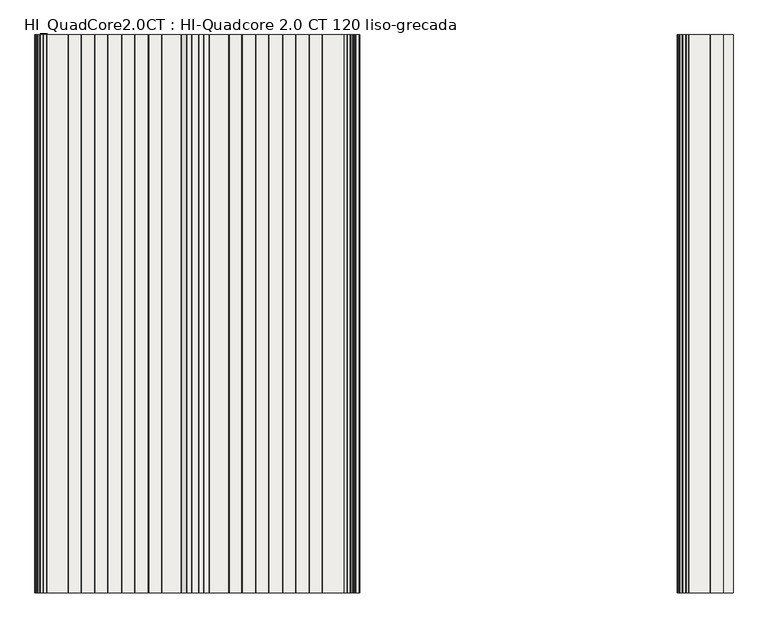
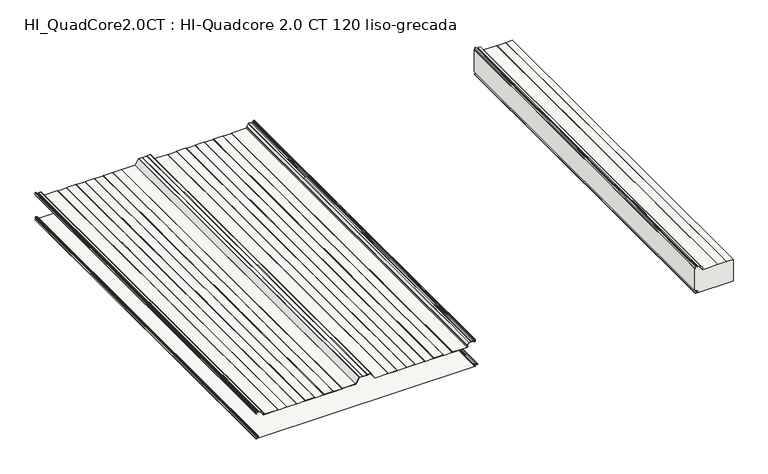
"""IFC4 building model written with IfcOpenShell, lengths in millimetres: slab geometry, HI_QuadCore2.0CT : HI-Quadcore 2.0 CT 120 liso-grecada."""

from ifc_helpers import new_model, si_unit, point, frame, frame_2d, origin, place, context, project, spatial, polyline, circle_curve, trimmed, segment, composite_curve, outline, extrude, source, transform, mapped, element, save
from ifc_brep_helpers import plane_surface, cylinder_surface, revolved_surface, advanced_brep


def hi_quadcore2_0ct_hi_quadcore_2_0_ct_120_liso_grecada_b9fa27ae(model_context):
    return source(origin(), model_context, "Body", "SolidModel", [
        advanced_brep(
        [(2305.1475465, 0.0, 135.7425833), (2301.3824194, 0.0, 137.9163804), (2300.0, 0.0, 137.9163804), (2300.0, 0.0, 16.239302), (2307.510215, 0.0, 16.239302), (2307.510215, 0.0, 15.4391074), (2303.6125693, 0.0, 15.4391074), (2302.4319301, 0.0, 14.2584682), (2303.4276302, 0.0, 13.0866965), (2311.8278581, 0.0, 11.7547343), (2311.7995989, 0.0, 4.4809044), (2301.8467032, 0.0, 2.9844289), (2302.0100062, 0.0, 0.8), (2500.0, 0.0, 0.8), (2500.0, 0.0, 119.2), (2467.3816122, 0.0, 119.2), (2465.6495614, 0.0, 118.2), (2420.6152775, 0.0, 118.2), (2418.8832267, 0.0, 119.2), (2342.7795617, 0.0, 119.2), (2339.9577511, 0.0, 126.2744555), (2340.9081159, 0.0, 127.0692788), (2341.1089583, 0.0, 128.5361221), (2331.7709236, 0.0, 142.1230469), (2330.8643848, 0.0, 142.6), (2321.5371875, 0.0, 142.6), (2319.8324194, 0.0, 141.8110374), (2318.1276514, 0.0, 142.6), (2311.4016791, 0.0, 142.6), (2309.2490397, 0.0, 144.0383476), (2307.3922843, 0.0, 148.5209518), (2306.3760168, 0.0, 149.2), (2302.7824194, 0.0, 149.2), (2301.6824194, 0.0, 148.1), (2301.6824194, 0.0, 138.6669358), (2305.5475465, 0.0, 136.4354036), (2305.1475465, 2000.0, 135.7425833), (2305.5475465, 2000.0, 136.4354036), (2301.6824194, 2000.0, 138.6669358), (2301.6824194, 2000.0, 148.1), (2302.7824194, 2000.0, 149.2), (2306.3760168, 2000.0, 149.2), (2307.3922843, 2000.0, 148.5209518), (2309.2490397, 2000.0, 144.0383476), (2311.4016791, 2000.0, 142.6), (2318.1276514, 2000.0, 142.6), (2319.8324194, 2000.0, 141.8110374), (2321.5371875, 2000.0, 142.6), (2330.8643848, 2000.0, 142.6), (2331.7709236, 2000.0, 142.1230469), (2341.1089583, 2000.0, 128.5361221), (2340.9081159, 2000.0, 127.0692788), (2339.9577511, 2000.0, 126.2744555), (2342.7795617, 2000.0, 119.2), (2418.8832267, 2000.0, 119.2), (2420.6152775, 2000.0, 118.2), (2465.6495614, 2000.0, 118.2), (2467.3816122, 2000.0, 119.2), (2500.0, 2000.0, 119.2), (2500.0, 2000.0, 0.8), (2302.0100062, 2000.0, 0.8), (2301.8467032, 2000.0, 2.9844289), (2311.7995989, 2000.0, 4.4809044), (2311.8278581, 2000.0, 11.7547343), (2303.4273037, 2000.0, 13.0846342), (2302.4319301, 2000.0, 14.2584682), (2303.6125693, 2000.0, 15.4391074), (2307.510215, 2000.0, 15.4391074), (2307.510215, 2000.0, 16.239302), (2300.0, 2000.0, 16.239302), (2300.0, 2000.0, 137.9163804), (2301.3824194, 2000.0, 137.9163804)],
        [
            (0, 1),
            (1, 2),
            (2, 3),
            (3, 4),
            (4, 5),
            (5, 6),
            (6, 7, circle_curve(frame((2303.6125693, 0.0, 14.2584682), z_axis=(0.0, -1.0, 0.0), x_axis=(1.0, 0.0, 0.0)), 1.1806391)),
            (7, 8, circle_curve(frame((2303.6121809, 0.0, 14.2524448), z_axis=(0.0, -1.0, 0.0), x_axis=(1.0, 0.0, 0.0)), 1.1802661)),
            (8, 9),
            (9, 10, circle_curve(frame((2311.2524398, 0.0, 8.12), z_axis=(0.0, 1.0, 0.0), x_axis=(1.0, 0.0, 0.0)), 3.68)),
            (10, 11),
            (11, 12, circle_curve(frame((2302.0100062, 0.0, 1.8983185), z_axis=(0.0, -1.0, 0.0), x_axis=(1.0, 0.0, 0.0)), 1.0983185)),
            (12, 13),
            (13, 14),
            (14, 15),
            (15, 16),
            (16, 17),
            (17, 18),
            (18, 19),
            (19, 20, circle_curve(frame((2342.7795617, 0.0, 123.3), z_axis=(0.0, 1.0, 0.0), x_axis=(1.0, 0.0, 0.0)), 4.1)),
            (20, 21),
            (21, 22, circle_curve(frame((2340.2024195, 0.0, 127.9130752), z_axis=(0.0, -1.0, 0.0), x_axis=(1.0, 0.0, 0.0)), 1.1)),
            (22, 23),
            (23, 24, circle_curve(frame((2330.8643848, 0.0, 141.5), z_axis=(0.0, -1.0, 0.0), x_axis=(1.0, 0.0, 0.0)), 1.1)),
            (24, 25),
            (25, 26),
            (26, 27),
            (27, 28),
            (28, 29, circle_curve(frame((2311.4016791, 0.0, 144.93), z_axis=(0.0, 1.0, 0.0), x_axis=(1.0, 0.0, 0.0)), 2.33)),
            (29, 30),
            (30, 31, circle_curve(frame((2306.3760168, 0.0, 148.1), z_axis=(0.0, -1.0, 0.0), x_axis=(1.0, 0.0, 0.0)), 1.1)),
            (31, 32),
            (32, 33, circle_curve(frame((2302.7824194, 0.0, 148.1), z_axis=(0.0, -1.0, 0.0), x_axis=(1.0, 0.0, 0.0)), 1.1)),
            (33, 34),
            (34, 35),
            (35, 0),
            (36, 37),
            (37, 38),
            (38, 39),
            (39, 40, circle_curve(frame((2302.7824194, 2000.0, 148.1), z_axis=(0.0, 1.0, 0.0), x_axis=(1.0, 0.0, 0.0)), 1.1)),
            (40, 41),
            (41, 42, circle_curve(frame((2306.3760168, 2000.0, 148.1), z_axis=(0.0, 1.0, 0.0), x_axis=(1.0, 0.0, 0.0)), 1.1)),
            (42, 43),
            (43, 44, circle_curve(frame((2311.4016791, 2000.0, 144.93), z_axis=(0.0, -1.0, 0.0), x_axis=(1.0, 0.0, 0.0)), 2.33)),
            (44, 45),
            (45, 46),
            (46, 47),
            (47, 48),
            (48, 49, circle_curve(frame((2330.8643848, 2000.0, 141.5), z_axis=(0.0, 1.0, 0.0), x_axis=(1.0, 0.0, 0.0)), 1.1)),
            (49, 50),
            (50, 51, circle_curve(frame((2340.2024195, 2000.0, 127.9130752), z_axis=(0.0, 1.0, 0.0), x_axis=(1.0, 0.0, 0.0)), 1.1)),
            (51, 52),
            (52, 53, circle_curve(frame((2342.7795617, 2000.0, 123.3), z_axis=(0.0, -1.0, 0.0), x_axis=(1.0, 0.0, 0.0)), 4.1)),
            (53, 54),
            (54, 55),
            (55, 56),
            (56, 57),
            (57, 58),
            (58, 59),
            (59, 60),
            (60, 61, circle_curve(frame((2302.0100062, 2000.0, 1.8983185), z_axis=(0.0, 1.0, 0.0), x_axis=(1.0, 0.0, 0.0)), 1.0983185)),
            (61, 62),
            (62, 63, circle_curve(frame((2311.2524398, 2000.0, 8.12), z_axis=(0.0, -1.0, 0.0), x_axis=(1.0, 0.0, 0.0)), 3.68)),
            (63, 64),
            (64, 65, circle_curve(frame((2303.6121809, 2000.0, 14.2524448), z_axis=(0.0, 1.0, 0.0), x_axis=(1.0, 0.0, 0.0)), 1.1802661)),
            (65, 66, circle_curve(frame((2303.6125693, 2000.0, 14.2584682), z_axis=(0.0, 1.0, 0.0), x_axis=(1.0, 0.0, 0.0)), 1.1806391)),
            (66, 67),
            (67, 68),
            (68, 69),
            (69, 70),
            (70, 71),
            (71, 36),
            (0, 36),
            (71, 1),
            (70, 2),
            (69, 3),
            (57, 15),
            (14, 58),
            (56, 16),
            (55, 17),
            (54, 18),
            (53, 19),
            (52, 20),
            (51, 21),
            (50, 22),
            (49, 23),
            (48, 24),
            (47, 25),
            (46, 26),
            (45, 27),
            (44, 28),
            (43, 29),
            (42, 30),
            (41, 31),
            (40, 32),
            (39, 33),
            (38, 34),
            (37, 35),
            (68, 4),
            (67, 5),
            (66, 6),
            (65, 7),
            (64, 8),
            (63, 9),
            (62, 10),
            (61, 11),
            (60, 12),
            (59, 13),
        ],
        [
            plane_surface(frame((2301.3824194, 0.0, 137.9163804), z_axis=(0.0, -1.0, 0.0), x_axis=(-0.8660254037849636, 0.0, 0.4999999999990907))),
            plane_surface(frame((2301.3824194, 2000.0, 137.9163804), z_axis=(0.0, 1.0, 0.0), x_axis=(0.8660254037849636, 0.0, -0.4999999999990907))),
            plane_surface(frame((2305.1475465, 0.0, 135.7425833), z_axis=(0.4999999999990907, 0.0, 0.8660254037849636), x_axis=(0.0, 1.0, 0.0))),
            plane_surface(frame((2301.3824194, 0.0, 137.9163804), z_axis=(0.0, 0.0, 1.0), x_axis=(0.0, 1.0, 0.0))),
            plane_surface(frame((2300.0, 0.0, 137.9163804), z_axis=(-1.0, 0.0, 0.0), x_axis=(0.0, 1.0, 0.0))),
            plane_surface(frame((2514.8832267, 0.0, 119.2), z_axis=(0.0, 0.0, 1.0), x_axis=(0.0, 1.0, 0.0))),
            plane_surface(frame((2467.3816122, 0.0, 119.2), z_axis=(-0.5000000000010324, 0.0, 0.8660254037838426), x_axis=(0.0, 1.0, 0.0))),
            plane_surface(frame((2465.6495614, 0.0, 118.2), z_axis=(0.0, 0.0, 1.0), x_axis=(0.0, 1.0, 0.0))),
            plane_surface(frame((2420.6152775, 0.0, 118.2), z_axis=(0.4999999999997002, 0.0, 0.8660254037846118), x_axis=(0.0, 1.0, 0.0))),
            plane_surface(frame((2418.8832267, 0.0, 119.2), z_axis=(0.0, 0.0, 1.0), x_axis=(0.0, 1.0, 0.0))),
            revolved_surface(polyline([(2346.8795617, 2000.0, 123.3), (2346.8795617, 0.0, 123.3)]), (2342.7795617, 2000.0, 123.3), (0.0, 1.0, 0.0)),
            plane_surface(frame((2339.9577511, 0.0, 126.2744555), z_axis=(0.6415422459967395, 0.0, -0.7670877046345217), x_axis=(0.0, 1.0, 0.0))),
            cylinder_surface(frame((2340.2024195, 2000.0, 127.9130752), z_axis=(0.0, -1.0, 0.0), x_axis=(1.0, 0.0, 0.0)), 1.1),
            plane_surface(frame((2341.1089583, 0.0, 128.5361221), z_axis=(0.8241261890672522, 0.0, 0.5664062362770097), x_axis=(0.0, 1.0, 0.0))),
            cylinder_surface(frame((2330.8643848, 2000.0, 141.5), z_axis=(0.0, -1.0, 0.0), x_axis=(1.0, 0.0, 0.0)), 1.1),
            plane_surface(frame((2330.8643848, 0.0, 142.6), z_axis=(0.0, 0.0, 1.0), x_axis=(0.0, 1.0, 0.0))),
            plane_surface(frame((2321.5371875, 0.0, 142.6), z_axis=(-0.4199999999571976, 0.0, 0.9075241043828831), x_axis=(0.0, 1.0, 0.0))),
            plane_surface(frame((2319.8324194, 0.0, 141.8110374), z_axis=(0.4200000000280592, 0.0, 0.9075241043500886), x_axis=(0.0, 1.0, 0.0))),
            plane_surface(frame((2318.1276514, 0.0, 142.6), z_axis=(0.0, 0.0, 1.0), x_axis=(0.0, 1.0, 0.0))),
            revolved_surface(polyline([(2313.7316791, 2000.0, 144.93), (2313.7316791, 0.0, 144.93)]), (2311.4016791, 2000.0, 144.93), (0.0, 1.0, 0.0)),
            plane_surface(frame((2309.2490397, 0.0, 144.0383476), z_axis=(0.9238795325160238, 0.0, 0.3826834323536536), x_axis=(0.0, 1.0, 0.0))),
            cylinder_surface(frame((2306.3760168, 2000.0, 148.1), z_axis=(0.0, -1.0, 0.0), x_axis=(1.0, 0.0, 0.0)), 1.1),
            plane_surface(frame((2306.3760168, 0.0, 149.2), z_axis=(0.0, 0.0, 1.0), x_axis=(0.0, 1.0, 0.0))),
            cylinder_surface(frame((2302.7824194, 2000.0, 148.1), z_axis=(0.0, -1.0, 0.0), x_axis=(1.0, 0.0, 0.0)), 1.1),
            plane_surface(frame((2301.6824194, 0.0, 148.1), z_axis=(-1.0, 0.0, 0.0), x_axis=(0.0, 1.0, 0.0))),
            plane_surface(frame((2301.6824194, 0.0, 138.6669358), z_axis=(-0.49999999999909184, 0.0, -0.866025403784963), x_axis=(0.0, 1.0, 0.0))),
            plane_surface(frame((2305.5475465, 0.0, 136.4354036), z_axis=(-0.866025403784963, 0.0, 0.4999999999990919), x_axis=(0.0, 1.0, 0.0))),
            plane_surface(frame((2300.0, 0.0, 16.239302), z_axis=(0.0, 0.0, -1.0), x_axis=(0.0, 1.0, 0.0))),
            plane_surface(frame((2307.510215, 0.0, 16.239302), z_axis=(-1.0, 0.0, 0.0), x_axis=(0.0, 1.0, 0.0))),
            plane_surface(frame((2307.510215, 0.0, 15.4391074), z_axis=(0.0, 0.0, 1.0), x_axis=(0.0, 1.0, 0.0))),
            cylinder_surface(frame((2303.6125693, 2000.0, 14.2584682), z_axis=(0.0, -1.0, 0.0), x_axis=(1.0, 0.0, 0.0)), 1.1806391),
            cylinder_surface(frame((2303.6121809, 2000.0, 14.2524448), z_axis=(0.0, -1.0, 0.0), x_axis=(1.0, 0.0, 0.0)), 1.1802661),
            plane_surface(frame((2303.4273037, 0.0, 13.0846342), z_axis=(-0.1563636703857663, 0.0, -0.9876995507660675), x_axis=(0.0, 1.0, 0.0))),
            revolved_surface(polyline([(2314.9324398, 2000.0, 8.12), (2314.9324398, 0.0, 8.12)]), (2311.2524398, 2000.0, 8.12), (0.0, 1.0, 0.0)),
            plane_surface(frame((2311.7995989, 0.0, 4.4809044), z_axis=(-0.14868453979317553, 0.0, 0.9888846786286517), x_axis=(0.0, 1.0, 0.0))),
            cylinder_surface(frame((2302.0100062, 2000.0, 1.8983185), z_axis=(0.0, -1.0, 0.0), x_axis=(1.0, 0.0, 0.0)), 1.0983185),
            plane_surface(frame((2302.0100062, 0.0, 0.8), z_axis=(0.0, 0.0, -1.0), x_axis=(0.0, 1.0, 0.0))),
            plane_surface(frame((2500.0, 0.0, 166.2714688), z_axis=(1.0, 0.0, 0.0), x_axis=(0.0, 1.0, 0.0))),
        ],
        [
            (0, [[1, 2, 3, 4, 5, 6, 7, 8, 9, 10, 11, 12, 13, 14, 15, 16, 17, 18, 19, 20, 21, 22, 23, 24, 25, 26, 27, 28, 29, 30, 31, 32, 33, 34, 35, 36]]),
            (1, [[37, 38, 39, 40, 41, 42, 43, 44, 45, 46, 47, 48, 49, 50, 51, 52, 53, 54, 55, 56, 57, 58, 59, 60, 61, 62, 63, 64, 65, 66, 67, 68, 69, 70, 71, 72]]),
            (2, [[-1, 73, -72, 74]]),
            (3, [[-2, -74, -71, 75]]),
            (4, [[-75, -70, 76, -3]]),
            (5, [[77, -15, 78, -58]]),
            (6, [[-16, -77, -57, 79]]),
            (7, [[-17, -79, -56, 80]]),
            (8, [[-18, -80, -55, 81]]),
            (9, [[-19, -81, -54, 82]]),
            (10, [[-20, -82, -53, 83]]),
            (11, [[-21, -83, -52, 84]]),
            (12, [[-22, -84, -51, 85]]),
            (13, [[-23, -85, -50, 86]]),
            (14, [[-24, -86, -49, 87]]),
            (15, [[-25, -87, -48, 88]]),
            (16, [[-26, -88, -47, 89]]),
            (17, [[-27, -89, -46, 90]]),
            (18, [[-28, -90, -45, 91]]),
            (19, [[-29, -91, -44, 92]]),
            (20, [[-30, -92, -43, 93]]),
            (21, [[-31, -93, -42, 94]]),
            (22, [[-32, -94, -41, 95]]),
            (23, [[-33, -95, -40, 96]]),
            (24, [[-34, -96, -39, 97]]),
            (25, [[-35, -97, -38, 98]]),
            (26, [[-36, -98, -37, -73]]),
            (27, [[-76, -69, 99, -4]]),
            (28, [[-5, -99, -68, 100]]),
            (29, [[-6, -100, -67, 101]]),
            (30, [[-7, -101, -66, 102]]),
            (31, [[-8, -102, -65, 103]]),
            (32, [[-9, -103, -64, 104]]),
            (33, [[-10, -104, -63, 105]]),
            (34, [[-11, -105, -62, 106]]),
            (35, [[-12, -106, -61, 107]]),
            (36, [[-107, -60, 108, -13]]),
            (37, [[-14, -108, -59, -78]]),
        ],
    ),
        advanced_brep(
        [(3.6125412, 0.0, 16.239302), (1.6320413, 0.0, 14.2588021), (3.3026044, 0.0, 12.2960661), (11.7027672, 0.0, 10.9645747), (11.6806488, 0.0, 5.2720118), (1.7277556, 0.0, 3.7755366), (2.0100062, 0.0, 0.0), (1147.9590685, 0.0, 0.0), (1150.1391392, 0.0, 2.1800708), (1152.6636211, 0.0, 5.0353254), (1160.9083654, 0.0, 6.0356531), (1160.9083654, 0.0, 10.2043469), (1150.9419234, 0.0, 11.413338), (1148.6324398, 0.0, 14.0237344), (1147.5187526, 0.0, 16.24), (1142.7624398, 0.0, 16.24), (1142.7624398, 0.0, 15.44), (1147.2282701, 0.0, 15.44), (1147.8324398, 0.0, 14.0237344), (1150.8450446, 0.0, 10.6192254), (1160.7843299, 0.0, 9.4135286), (1160.7843221, 0.0, 6.8264698), (1152.5664905, 0.0, 5.8294074), (1149.3391392, 0.0, 2.1800708), (1147.9590685, 0.0, 0.8), (2.0100062, 0.0, 0.8), (1.8467032, 0.0, 2.9844289), (11.7995989, 0.0, 4.4809044), (11.8278581, 0.0, 11.7547343), (3.4279307, 0.0, 13.084535), (2.4319301, 0.0, 14.2584682), (3.6125693, 0.0, 15.4391074), (7.510215, 0.0, 15.4391074), (7.510215, 0.0, 16.239302), (3.6125412, 2000.0, 16.239302), (7.510215, 2000.0, 16.239302), (7.510215, 2000.0, 15.4391074), (3.6125693, 2000.0, 15.4391074), (2.4319301, 2000.0, 14.2584682), (3.4276302, 2000.0, 13.0866965), (11.8278581, 2000.0, 11.7547343), (11.7995989, 2000.0, 4.4809044), (1.8467032, 2000.0, 2.9844289), (2.0100062, 2000.0, 0.8), (1147.9590685, 2000.0, 0.8), (1149.3391392, 2000.0, 2.1800708), (1152.5664905, 2000.0, 5.8294074), (1160.7843221, 2000.0, 6.8264698), (1160.7843299, 2000.0, 9.4135286), (1150.8450446, 2000.0, 10.6192254), (1147.8324398, 2000.0, 14.0237344), (1147.2282701, 2000.0, 15.44), (1142.7624398, 2000.0, 15.44), (1142.7624398, 2000.0, 16.24), (1147.5187526, 2000.0, 16.24), (1148.6324398, 2000.0, 14.0237344), (1150.9419234, 2000.0, 11.413338), (1160.9083654, 2000.0, 10.2043469), (1160.9083654, 2000.0, 6.0356531), (1152.6636211, 2000.0, 5.0353254), (1150.1391392, 2000.0, 2.1800708), (1147.9590685, 2000.0, 0.0), (2.0100062, 2000.0, 0.0), (1.7277556, 2000.0, 3.7755366), (11.6806488, 2000.0, 5.2720118), (11.7027672, 2000.0, 10.9645747), (3.3028397, 2000.0, 12.2943753), (1.6320413, 2000.0, 14.2588021)],
        [
            (0, 1, circle_curve(frame((3.6125412, 0.0, 14.2588021), z_axis=(0.0, -1.0, 0.0), x_axis=(1.0, 0.0, 0.0)), 1.9804999)),
            (1, 2, circle_curve(frame((3.612237, 0.0, 14.2519163), z_axis=(0.0, -1.0, 0.0), x_axis=(1.0, 0.0, 0.0)), 1.9802076)),
            (2, 3),
            (3, 4, circle_curve(frame((11.2524398, 0.0, 8.12), z_axis=(0.0, 1.0, 0.0), x_axis=(1.0, 0.0, 0.0)), 2.88)),
            (4, 5),
            (5, 6, circle_curve(frame((2.0100062, 0.0, 1.8983185), z_axis=(0.0, -1.0, 0.0), x_axis=(1.0, 0.0, 0.0)), 1.8983185)),
            (6, 7),
            (7, 8, circle_curve(frame((1147.9590685, 0.0, 2.1800708), z_axis=(0.0, -1.0, 0.0), x_axis=(1.0, 0.0, 0.0)), 2.1800708)),
            (8, 9, circle_curve(frame((1153.0160638, 0.0, 2.1800708), z_axis=(0.0, 1.0, 0.0), x_axis=(1.0, 0.0, 0.0)), 2.8769246)),
            (9, 10),
            (10, 11, circle_curve(frame((1160.5224398, 0.0, 8.12), z_axis=(0.0, -1.0, 0.0), x_axis=(1.0, 0.0, 0.0)), 2.1197737)),
            (11, 12),
            (12, 13, circle_curve(frame((1151.2624398, 0.0, 14.0237344), z_axis=(0.0, 1.0, 0.0), x_axis=(1.0, 0.0, 0.0)), 2.63)),
            (13, 14, circle_curve(frame((1145.8703839, 0.0, 14.0237344), z_axis=(0.0, -1.0, 0.0), x_axis=(1.0, 0.0, 0.0)), 2.7620559)),
            (14, 15),
            (15, 16),
            (16, 17),
            (17, 18, circle_curve(frame((1145.8703839, 0.0, 14.0237344), z_axis=(0.0, 1.0, 0.0), x_axis=(1.0, 0.0, 0.0)), 1.9620559)),
            (18, 19, circle_curve(frame((1151.2624398, 0.0, 14.0237344), z_axis=(0.0, -1.0, 0.0), x_axis=(1.0, 0.0, 0.0)), 3.43)),
            (19, 20),
            (20, 21, circle_curve(frame((1160.5224398, 0.0, 8.12), z_axis=(0.0, 1.0, 0.0), x_axis=(1.0, 0.0, 0.0)), 1.3197737)),
            (21, 22),
            (22, 23, circle_curve(frame((1153.0160638, 0.0, 2.1800708), z_axis=(0.0, -1.0, 0.0), x_axis=(1.0, 0.0, 0.0)), 3.6769246)),
            (23, 24, circle_curve(frame((1147.9590685, 0.0, 2.1800708), z_axis=(0.0, 1.0, 0.0), x_axis=(1.0, 0.0, 0.0)), 1.3800708)),
            (24, 25),
            (25, 26, circle_curve(frame((2.0100062, 0.0, 1.8983185), z_axis=(0.0, 1.0, 0.0), x_axis=(1.0, 0.0, 0.0)), 1.0983185)),
            (26, 27),
            (27, 28, circle_curve(frame((11.2524398, 0.0, 8.12), z_axis=(0.0, -1.0, 0.0), x_axis=(1.0, 0.0, 0.0)), 3.68)),
            (28, 29),
            (29, 30, circle_curve(frame((3.6121809, 0.0, 14.2524448), z_axis=(0.0, 1.0, 0.0), x_axis=(1.0, 0.0, 0.0)), 1.1802661)),
            (30, 31, circle_curve(frame((3.6125693, 0.0, 14.2584682), z_axis=(0.0, 1.0, 0.0), x_axis=(1.0, 0.0, 0.0)), 1.1806391)),
            (31, 32),
            (32, 33),
            (33, 0),
            (34, 35),
            (35, 36),
            (36, 37),
            (37, 38, circle_curve(frame((3.6125693, 2000.0, 14.2584682), z_axis=(0.0, -1.0, 0.0), x_axis=(1.0, 0.0, 0.0)), 1.1806391)),
            (38, 39, circle_curve(frame((3.6121809, 2000.0, 14.2524448), z_axis=(0.0, -1.0, 0.0), x_axis=(1.0, 0.0, 0.0)), 1.1802661)),
            (39, 40),
            (40, 41, circle_curve(frame((11.2524398, 2000.0, 8.12), z_axis=(0.0, 1.0, 0.0), x_axis=(1.0, 0.0, 0.0)), 3.68)),
            (41, 42),
            (42, 43, circle_curve(frame((2.0100062, 2000.0, 1.8983185), z_axis=(0.0, -1.0, 0.0), x_axis=(1.0, 0.0, 0.0)), 1.0983185)),
            (43, 44),
            (44, 45, circle_curve(frame((1147.9590685, 2000.0, 2.1800708), z_axis=(0.0, -1.0, 0.0), x_axis=(1.0, 0.0, 0.0)), 1.3800708)),
            (45, 46, circle_curve(frame((1153.0160638, 2000.0, 2.1800708), z_axis=(0.0, 1.0, 0.0), x_axis=(1.0, 0.0, 0.0)), 3.6769246)),
            (46, 47),
            (47, 48, circle_curve(frame((1160.5224398, 2000.0, 8.12), z_axis=(0.0, -1.0, 0.0), x_axis=(1.0, 0.0, 0.0)), 1.3197737)),
            (48, 49),
            (49, 50, circle_curve(frame((1151.2624398, 2000.0, 14.0237344), z_axis=(0.0, 1.0, 0.0), x_axis=(1.0, 0.0, 0.0)), 3.43)),
            (50, 51, circle_curve(frame((1145.8703839, 2000.0, 14.0237344), z_axis=(0.0, -1.0, 0.0), x_axis=(1.0, 0.0, 0.0)), 1.9620559)),
            (51, 52),
            (52, 53),
            (53, 54),
            (54, 55, circle_curve(frame((1145.8703839, 2000.0, 14.0237344), z_axis=(0.0, 1.0, 0.0), x_axis=(1.0, 0.0, 0.0)), 2.7620559)),
            (55, 56, circle_curve(frame((1151.2624398, 2000.0, 14.0237344), z_axis=(0.0, -1.0, 0.0), x_axis=(1.0, 0.0, 0.0)), 2.63)),
            (56, 57),
            (57, 58, circle_curve(frame((1160.5224398, 2000.0, 8.12), z_axis=(0.0, 1.0, 0.0), x_axis=(1.0, 0.0, 0.0)), 2.1197737)),
            (58, 59),
            (59, 60, circle_curve(frame((1153.0160638, 2000.0, 2.1800708), z_axis=(0.0, -1.0, 0.0), x_axis=(1.0, 0.0, 0.0)), 2.8769246)),
            (60, 61, circle_curve(frame((1147.9590685, 2000.0, 2.1800708), z_axis=(0.0, 1.0, 0.0), x_axis=(1.0, 0.0, 0.0)), 2.1800708)),
            (61, 62),
            (62, 63, circle_curve(frame((2.0100062, 2000.0, 1.8983185), z_axis=(0.0, 1.0, 0.0), x_axis=(1.0, 0.0, 0.0)), 1.8983185)),
            (63, 64),
            (64, 65, circle_curve(frame((11.2524398, 2000.0, 8.12), z_axis=(0.0, -1.0, 0.0), x_axis=(1.0, 0.0, 0.0)), 2.88)),
            (65, 66),
            (66, 67, circle_curve(frame((3.612237, 2000.0, 14.2519163), z_axis=(0.0, 1.0, 0.0), x_axis=(1.0, 0.0, 0.0)), 1.9802076)),
            (67, 34, circle_curve(frame((3.6125412, 2000.0, 14.2588021), z_axis=(0.0, 1.0, 0.0), x_axis=(1.0, 0.0, 0.0)), 1.9804999)),
            (0, 34),
            (67, 1),
            (66, 2),
            (65, 3),
            (64, 4),
            (63, 5),
            (62, 6),
            (61, 7),
            (60, 8),
            (59, 9),
            (58, 10),
            (57, 11),
            (56, 12),
            (55, 13),
            (54, 14),
            (53, 15),
            (52, 16),
            (51, 17),
            (50, 18),
            (49, 19),
            (48, 20),
            (47, 21),
            (46, 22),
            (45, 23),
            (44, 24),
            (43, 25),
            (42, 26),
            (41, 27),
            (40, 28),
            (39, 29),
            (38, 30),
            (37, 31),
            (36, 32),
            (35, 33),
        ],
        [
            plane_surface(frame((5.5930411, 0.0, 14.2588021), z_axis=(0.0, -1.0, 0.0), x_axis=(0.0, 0.0, 1.0))),
            plane_surface(frame((5.5930411, 2000.0, 14.2588021), z_axis=(0.0, 1.0, 0.0), x_axis=(0.0, 0.0, -1.0))),
            cylinder_surface(frame((3.6125412, 2000.0, 14.2588021), z_axis=(0.0, -1.0, 0.0), x_axis=(1.0, 0.0, 0.0)), 1.9804999),
            cylinder_surface(frame((3.612237, 2000.0, 14.2519163), z_axis=(0.0, -1.0, 0.0), x_axis=(1.0, 0.0, 0.0)), 1.9802076),
            plane_surface(frame((3.3028397, 0.0, 12.2943753), z_axis=(-0.15636367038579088, 0.0, -0.9876995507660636), x_axis=(0.0, 1.0, 0.0))),
            revolved_surface(polyline([(14.1324398, 2000.0, 8.12), (14.1324398, 0.0, 8.12)]), (11.2524398, 2000.0, 8.12), (0.0, 1.0, 0.0)),
            plane_surface(frame((11.6806488, 0.0, 5.2720118), z_axis=(-0.14868453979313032, 0.0, 0.9888846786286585), x_axis=(0.0, 1.0, 0.0))),
            cylinder_surface(frame((2.0100062, 2000.0, 1.8983185), z_axis=(0.0, -1.0, 0.0), x_axis=(1.0, 0.0, 0.0)), 1.8983185),
            plane_surface(frame((2.0100062, 0.0, 0.0), z_axis=(0.0, 0.0, -1.0), x_axis=(0.0, 1.0, 0.0))),
            cylinder_surface(frame((1147.9590685, 2000.0, 2.1800708), z_axis=(0.0, -1.0, 0.0), x_axis=(1.0, 0.0, 0.0)), 2.1800708),
            revolved_surface(polyline([(1155.8929884, 2000.0, 2.1800708), (1155.8929884, 0.0, 2.1800708)]), (1153.0160638, 2000.0, 2.1800708), (0.0, 1.0, 0.0)),
            plane_surface(frame((1152.6636211, 0.0, 5.0353254), z_axis=(0.12044584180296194, 0.0, -0.9927198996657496), x_axis=(0.0, 1.0, 0.0))),
            cylinder_surface(frame((1160.5224398, 2000.0, 8.12), z_axis=(0.0, -1.0, 0.0), x_axis=(1.0, 0.0, 0.0)), 2.1197737),
            plane_surface(frame((1160.9083654, 0.0, 10.2043469), z_axis=(0.12042339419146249, 0.0, 0.9927226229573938), x_axis=(0.0, 1.0, 0.0))),
            revolved_surface(polyline([(1153.8924398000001, 2000.0, 14.0237344), (1153.8924398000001, 0.0, 14.0237344)]), (1151.2624398, 2000.0, 14.0237344), (0.0, 1.0, 0.0)),
            cylinder_surface(frame((1145.8703839, 2000.0, 14.0237344), z_axis=(0.0, -1.0, 0.0), x_axis=(1.0, 0.0, 0.0)), 2.7620559),
            plane_surface(frame((1147.5187526, 0.0, 16.24), z_axis=(0.0, 0.0, 1.0), x_axis=(0.0, 1.0, 0.0))),
            plane_surface(frame((1142.7624398, 0.0, 16.24), z_axis=(-1.0, 0.0, 0.0), x_axis=(0.0, 1.0, 0.0))),
            plane_surface(frame((1142.7624398, 0.0, 15.44), z_axis=(0.0, 0.0, -1.0), x_axis=(0.0, 1.0, 0.0))),
            revolved_surface(polyline([(1147.8324398, 2000.0, 14.0237344), (1147.8324398, 0.0, 14.0237344)]), (1145.8703839, 2000.0, 14.0237344), (0.0, 1.0, 0.0)),
            cylinder_surface(frame((1151.2624398, 2000.0, 14.0237344), z_axis=(0.0, -1.0, 0.0), x_axis=(1.0, 0.0, 0.0)), 3.43),
            plane_surface(frame((1150.8450446, 0.0, 10.6192254), z_axis=(-0.12042339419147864, 0.0, -0.9927226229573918), x_axis=(0.0, 1.0, 0.0))),
            revolved_surface(polyline([(1161.8422135, 2000.0, 8.12), (1161.8422135, 0.0, 8.12)]), (1160.5224398, 2000.0, 8.12), (0.0, 1.0, 0.0)),
            plane_surface(frame((1160.7843221, 0.0, 6.8264698), z_axis=(-0.12044584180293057, 0.0, 0.9927198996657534), x_axis=(0.0, 1.0, 0.0))),
            cylinder_surface(frame((1153.0160638, 2000.0, 2.1800708), z_axis=(0.0, -1.0, 0.0), x_axis=(1.0, 0.0, 0.0)), 3.6769246),
            revolved_surface(polyline([(1149.3391393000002, 2000.0, 2.1800708), (1149.3391393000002, 0.0, 2.1800708)]), (1147.9590685, 2000.0, 2.1800708), (0.0, 1.0, 0.0)),
            plane_surface(frame((1147.9590685, 0.0, 0.8), z_axis=(0.0, 0.0, 1.0), x_axis=(0.0, 1.0, 0.0))),
            revolved_surface(polyline([(3.1083247, 2000.0, 1.8983185), (3.1083247, 0.0, 1.8983185)]), (2.0100062, 2000.0, 1.8983185), (0.0, 1.0, 0.0)),
            plane_surface(frame((1.8467032, 0.0, 2.9844289), z_axis=(0.14868453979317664, 0.0, -0.9888846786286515), x_axis=(0.0, 1.0, 0.0))),
            cylinder_surface(frame((11.2524398, 2000.0, 8.12), z_axis=(0.0, -1.0, 0.0), x_axis=(1.0, 0.0, 0.0)), 3.68),
            plane_surface(frame((11.8278581, 0.0, 11.7547343), z_axis=(0.15636367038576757, 0.0, 0.9876995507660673), x_axis=(0.0, 1.0, 0.0))),
            revolved_surface(polyline([(4.792447, 2000.0, 14.2524448), (4.792447, 0.0, 14.2524448)]), (3.6121809, 2000.0, 14.2524448), (0.0, 1.0, 0.0)),
            revolved_surface(polyline([(4.7932084, 2000.0, 14.2584682), (4.7932084, 0.0, 14.2584682)]), (3.6125693, 2000.0, 14.2584682), (0.0, 1.0, 0.0)),
            plane_surface(frame((3.6125693, 0.0, 15.4391074), z_axis=(0.0, 0.0, -1.0), x_axis=(0.0, 1.0, 0.0))),
            plane_surface(frame((7.510215, 0.0, 15.4391074), z_axis=(1.0, 0.0, 0.0), x_axis=(0.0, 1.0, 0.0))),
            plane_surface(frame((7.510215, 0.0, 16.239302), z_axis=(0.0, 0.0, 1.0), x_axis=(0.0, 1.0, 0.0))),
        ],
        [
            (0, [[1, 2, 3, 4, 5, 6, 7, 8, 9, 10, 11, 12, 13, 14, 15, 16, 17, 18, 19, 20, 21, 22, 23, 24, 25, 26, 27, 28, 29, 30, 31, 32, 33, 34]]),
            (1, [[35, 36, 37, 38, 39, 40, 41, 42, 43, 44, 45, 46, 47, 48, 49, 50, 51, 52, 53, 54, 55, 56, 57, 58, 59, 60, 61, 62, 63, 64, 65, 66, 67, 68]]),
            (2, [[-1, 69, -68, 70]]),
            (3, [[-2, -70, -67, 71]]),
            (4, [[-3, -71, -66, 72]]),
            (5, [[-4, -72, -65, 73]]),
            (6, [[-5, -73, -64, 74]]),
            (7, [[-6, -74, -63, 75]]),
            (8, [[-7, -75, -62, 76]]),
            (9, [[-8, -76, -61, 77]]),
            (10, [[-9, -77, -60, 78]]),
            (11, [[-10, -78, -59, 79]]),
            (12, [[-11, -79, -58, 80]]),
            (13, [[-12, -80, -57, 81]]),
            (14, [[-13, -81, -56, 82]]),
            (15, [[-14, -82, -55, 83]]),
            (16, [[-15, -83, -54, 84]]),
            (17, [[-16, -84, -53, 85]]),
            (18, [[-17, -85, -52, 86]]),
            (19, [[-18, -86, -51, 87]]),
            (20, [[-19, -87, -50, 88]]),
            (21, [[-20, -88, -49, 89]]),
            (22, [[-21, -89, -48, 90]]),
            (23, [[-22, -90, -47, 91]]),
            (24, [[-23, -91, -46, 92]]),
            (25, [[-24, -92, -45, 93]]),
            (26, [[-25, -93, -44, 94]]),
            (27, [[-26, -94, -43, 95]]),
            (28, [[-27, -95, -42, 96]]),
            (29, [[-28, -96, -41, 97]]),
            (30, [[-29, -97, -40, 98]]),
            (31, [[-30, -98, -39, 99]]),
            (32, [[-31, -99, -38, 100]]),
            (33, [[-32, -100, -37, 101]]),
            (34, [[-33, -101, -36, 102]]),
            (35, [[-34, -102, -35, -69]]),
        ],
    ),
        extrude(outline(composite_curve([segment(polyline([(137.9163804, 1.3824194), (135.7425833, 5.1475465), (136.4354036, 5.5475465), (138.6669358, 1.6824194), (148.1, 1.6824194)]), True, "CONTINUOUS"), segment(trimmed(circle_curve(frame_2d((148.1, 2.7824194)), 1.1), [point((148.1, 1.6824194))], [point((149.2, 2.7824194))], True, "CARTESIAN"), True, "CONTINUOUS"), segment(polyline([(149.2, 2.7824194), (149.2, 6.3760168)]), True, "CONTINUOUS"), segment(trimmed(circle_curve(frame_2d((148.1, 6.3760168)), 1.1), [point((149.2, 6.3760168))], [point((148.5209518, 7.3922843))], True, "CARTESIAN"), True, "CONTINUOUS"), segment(polyline([(148.5209518, 7.3922843), (144.0383476, 9.2490397)]), True, "CONTINUOUS"), segment(trimmed(circle_curve(frame_2d((144.93, 11.4016791)), 2.33), [point((144.0383476, 9.2490397))], [point((142.6, 11.4016791))], False, "CARTESIAN"), True, "CONTINUOUS"), segment(polyline([(142.6, 11.4016791), (142.6, 18.1276514), (141.8110374, 19.8324194), (142.6, 21.5371875), (142.6, 30.8643848)]), True, "CONTINUOUS"), segment(trimmed(circle_curve(frame_2d((141.5, 30.8643848)), 1.1), [point((142.6, 30.8643848))], [point((142.1230469, 31.7709236))], True, "CARTESIAN"), True, "CONTINUOUS"), segment(polyline([(142.1230469, 31.7709236), (128.5361221, 41.1089583)]), True, "CONTINUOUS"), segment(trimmed(circle_curve(frame_2d((127.9130752, 40.2024195)), 1.1), [point((128.5361221, 41.1089583))], [point((127.0692788, 40.9081159))], True, "CARTESIAN"), True, "CONTINUOUS"), segment(polyline([(127.0692788, 40.9081159), (126.2744555, 39.9577511)]), True, "CONTINUOUS"), segment(trimmed(circle_curve(frame_2d((123.3, 42.7795617)), 4.1), [point((126.2744555, 39.9577511))], [point((119.2, 42.7795617))], False, "CARTESIAN"), True, "CONTINUOUS"), segment(polyline([(119.2, 42.7795617), (119.2, 118.8832267), (118.2, 120.6152775), (118.2, 165.6495614), (119.2, 167.3816122), (119.2, 214.8832267), (118.2, 216.6152775), (118.2, 261.6495614), (119.2, 263.3816122), (119.2, 310.8832267), (118.2, 312.6152775), (118.2, 357.6495614), (119.2, 359.3816122), (119.2, 406.8832267), (118.2, 408.6152775), (118.2, 453.6495614), (119.2, 455.3816122), (119.2, 524.3619266)]), True, "CONTINUOUS"), segment(trimmed(circle_curve(frame_2d((121.53, 524.3619266)), 2.33), [point((119.2, 524.3619266))], [point((120.2833287, 526.330355))], False, "CARTESIAN"), True, "CONTINUOUS"), segment(polyline([(120.2833287, 526.330355), (148.6885573, 544.3203331)]), True, "CONTINUOUS"), segment(trimmed(circle_curve(frame_2d((148.1, 545.2496341)), 1.1), [point((148.6885573, 544.3203331))], [point((149.2, 545.2496341))], True, "CARTESIAN"), True, "CONTINUOUS"), segment(polyline([(149.2, 545.2496341), (149.2, 561.3832267), (147.7, 563.9813029), (147.7, 586.283536), (149.2, 588.8816122), (149.2, 605.0152048)]), True, "CONTINUOUS"), segment(trimmed(circle_curve(frame_2d((148.1, 605.0152048)), 1.1), [point((149.2, 605.0152048))], [point((148.6885573, 605.9445057))], True, "CARTESIAN"), True, "CONTINUOUS"), segment(polyline([(148.6885573, 605.9445057), (120.2833287, 623.9344839)]), True, "CONTINUOUS"), segment(trimmed(circle_curve(frame_2d((121.53, 625.9029123)), 2.33), [point((120.2833287, 623.9344839))], [point((119.2, 625.9029123))], False, "CARTESIAN"), True, "CONTINUOUS"), segment(polyline([(119.2, 625.9029123), (119.2, 694.8832267), (118.2, 696.6152775), (118.2, 741.6495614), (119.2, 743.3816122), (119.2, 790.8832267), (118.2, 792.6152775), (118.2, 837.6495614), (119.2, 839.3816122), (119.2, 886.8832267), (118.2, 888.6152775), (118.2, 933.6495614), (119.2, 935.3816122), (119.2, 982.8832267), (118.2, 984.6152775), (118.2, 1029.6495614), (119.2, 1031.3816122), (119.2, 1107.4852773)]), True, "CONTINUOUS"), segment(trimmed(circle_curve(frame_2d((123.3, 1107.4852773)), 4.1), [point((119.2, 1107.4852773))], [point((126.2744554, 1110.3070878))], False, "CARTESIAN"), True, "CONTINUOUS"), segment(polyline([(126.2744554, 1110.3070878), (127.0692788, 1109.356723)]), True, "CONTINUOUS"), segment(trimmed(circle_curve(frame_2d((127.9130753, 1110.0624194)), 1.1), [point((127.0692788, 1109.356723))], [point((128.5361221, 1109.1558806))], True, "CARTESIAN"), True, "CONTINUOUS"), segment(polyline([(128.5361221, 1109.1558806), (142.1230469, 1118.4939153)]), True, "CONTINUOUS"), segment(trimmed(circle_curve(frame_2d((141.5, 1119.4004541)), 1.1), [point((142.1230469, 1118.4939153))], [point((142.6, 1119.4004541))], True, "CARTESIAN"), True, "CONTINUOUS"), segment(polyline([(142.6, 1119.4004541), (142.6, 1128.7276514), (141.8110374, 1130.4324194), (142.6, 1132.1371875), (142.6, 1138.8631598)]), True, "CONTINUOUS"), segment(trimmed(circle_curve(frame_2d((144.93, 1138.8631598)), 2.33), [point((142.6, 1138.8631598))], [point((144.0383476, 1141.0157992))], False, "CARTESIAN"), True, "CONTINUOUS"), segment(polyline([(144.0383476, 1141.0157992), (148.5209518, 1142.8725546)]), True, "CONTINUOUS"), segment(trimmed(circle_curve(frame_2d((148.1, 1143.8888221)), 1.1), [point((148.5209518, 1142.8725546))], [point((149.2, 1143.8888221))], True, "CARTESIAN"), True, "CONTINUOUS"), segment(polyline([(149.2, 1143.8888221), (149.2, 1147.4824194)]), True, "CONTINUOUS"), segment(trimmed(circle_curve(frame_2d((148.1, 1147.4824194)), 1.1), [point((149.2, 1147.4824194))], [point((148.1, 1148.5824194))], True, "CARTESIAN"), True, "CONTINUOUS"), segment(polyline([(148.1, 1148.5824194), (138.6669358, 1148.5824194), (136.4354036, 1144.7172924), (135.7425833, 1145.1172924), (137.9163804, 1148.8824194)]), True, "CONTINUOUS"), segment(trimmed(circle_curve(frame_2d((138.7824058, 1148.3824194)), 1.0), [point((137.9163804, 1148.8824194))], [point((138.7824058, 1149.3824194))], False, "CARTESIAN"), True, "CONTINUOUS"), segment(polyline([(138.7824058, 1149.3824194), (148.1, 1149.3824194)]), True, "CONTINUOUS"), segment(trimmed(circle_curve(frame_2d((148.1, 1147.4824194)), 1.9), [point((148.1, 1149.3824194))], [point((150.0, 1147.4824194))], False, "CARTESIAN"), True, "CONTINUOUS"), segment(polyline([(150.0, 1147.4824194), (150.0, 1143.8888221)]), True, "CONTINUOUS"), segment(trimmed(circle_curve(frame_2d((148.1, 1143.8888221)), 1.9), [point((150.0, 1143.8888221))], [point((148.8270985, 1142.133451))], False, "CARTESIAN"), True, "CONTINUOUS"), segment(polyline([(148.8270985, 1142.133451), (144.3444944, 1140.2766955)]), True, "CONTINUOUS"), segment(trimmed(circle_curve(frame_2d((144.93, 1138.8631598)), 1.53), [point((144.3444944, 1140.2766955))], [point((143.4, 1138.8631598))], True, "CARTESIAN"), True, "CONTINUOUS"), segment(polyline([(143.4, 1138.8631598), (143.4, 1131.9610429), (142.6925567, 1130.4324194), (143.4, 1128.903796), (143.4, 1119.4004541)]), True, "CONTINUOUS"), segment(trimmed(circle_curve(frame_2d((141.5, 1119.4004541)), 1.9), [point((143.4, 1119.4004541))], [point((142.5761719, 1117.8346144))], False, "CARTESIAN"), True, "CONTINUOUS"), segment(polyline([(142.5761719, 1117.8346144), (128.9892471, 1108.4965797)]), True, "CONTINUOUS"), segment(trimmed(circle_curve(frame_2d((127.9130753, 1110.0624194)), 1.9), [point((128.9892471, 1108.4965797))], [point((126.4556086, 1108.8434892))], False, "CARTESIAN"), True, "CONTINUOUS"), segment(polyline([(126.4556086, 1108.8434892), (125.6777166, 1109.7736094)]), True, "CONTINUOUS"), segment(trimmed(circle_curve(frame_2d((123.3, 1107.4852773)), 3.3), [point((125.6777166, 1109.7736094))], [point((120.0, 1107.4852773))], True, "CARTESIAN"), True, "CONTINUOUS"), segment(polyline([(120.0, 1107.4852773), (120.0, 1031.5691766)]), True, "CONTINUOUS"), segment(trimmed(circle_curve(frame_2d((118.5, 1031.5691766)), 1.5), [point((120.0, 1031.5691766))], [point((119.7990381, 1030.8191766))], False, "CARTESIAN"), True, "CONTINUOUS"), segment(polyline([(119.7990381, 1030.8191766), (119.0, 1029.435202), (119.0, 984.8296369), (119.7990381, 983.4456623)]), True, "CONTINUOUS"), segment(trimmed(circle_curve(frame_2d((118.5, 982.6956623)), 1.5), [point((119.7990381, 983.4456623))], [point((120.0, 982.6956623))], False, "CARTESIAN"), True, "CONTINUOUS"), segment(polyline([(120.0, 982.6956623), (120.0, 935.5691766)]), True, "CONTINUOUS"), segment(trimmed(circle_curve(frame_2d((118.5, 935.5691766)), 1.5), [point((120.0, 935.5691766))], [point((119.7990381, 934.8191766))], False, "CARTESIAN"), True, "CONTINUOUS"), segment(polyline([(119.7990381, 934.8191766), (119.0, 933.435202), (119.0, 888.8296369), (119.7990381, 887.4456623)]), True, "CONTINUOUS"), segment(trimmed(circle_curve(frame_2d((118.5, 886.6956623)), 1.5), [point((119.7990381, 887.4456623))], [point((120.0, 886.6956623))], False, "CARTESIAN"), True, "CONTINUOUS"), segment(polyline([(120.0, 886.6956623), (120.0, 839.5691766)]), True, "CONTINUOUS"), segment(trimmed(circle_curve(frame_2d((118.5, 839.5691766)), 1.5), [point((120.0, 839.5691766))], [point((119.7990381, 838.8191766))], False, "CARTESIAN"), True, "CONTINUOUS"), segment(polyline([(119.7990381, 838.8191766), (119.0, 837.435202), (119.0, 792.8296369), (119.7990381, 791.4456623)]), True, "CONTINUOUS"), segment(trimmed(circle_curve(frame_2d((118.5, 790.6956623)), 1.5), [point((119.7990381, 791.4456623))], [point((120.0, 790.6956623))], False, "CARTESIAN"), True, "CONTINUOUS"), segment(polyline([(120.0, 790.6956623), (120.0, 743.5691766)]), True, "CONTINUOUS"), segment(trimmed(circle_curve(frame_2d((118.5, 743.5691766)), 1.5), [point((120.0, 743.5691766))], [point((119.7990381, 742.8191766))], False, "CARTESIAN"), True, "CONTINUOUS"), segment(polyline([(119.7990381, 742.8191766), (119.0, 741.435202), (119.0, 696.8296369), (119.7990381, 695.4456623)]), True, "CONTINUOUS"), segment(trimmed(circle_curve(frame_2d((118.5, 694.6956623)), 1.5), [point((119.7990381, 695.4456623))], [point((120.0, 694.6956623))], False, "CARTESIAN"), True, "CONTINUOUS"), segment(polyline([(120.0, 694.6956623), (120.0, 625.9029123)]), True, "CONTINUOUS"), segment(trimmed(circle_curve(frame_2d((121.53, 625.9029123)), 1.53), [point((120.0, 625.9029123))], [point((120.7113703, 624.6103391))], True, "CARTESIAN"), True, "CONTINUOUS"), segment(polyline([(120.7113703, 624.6103391), (149.116599, 606.620361)]), True, "CONTINUOUS"), segment(trimmed(circle_curve(frame_2d((148.1, 605.0152048)), 1.9), [point((149.116599, 606.620361))], [point((150.0, 605.0152048))], False, "CARTESIAN"), True, "CONTINUOUS"), segment(polyline([(150.0, 605.0152048), (150.0, 588.6672528), (148.5, 586.0691766), (148.5, 564.1956623), (150.0, 561.5975861), (150.0, 545.2496341)]), True, "CONTINUOUS"), segment(trimmed(circle_curve(frame_2d((148.1, 545.2496341)), 1.9), [point((150.0, 545.2496341))], [point((149.116599, 543.6444779))], False, "CARTESIAN"), True, "CONTINUOUS"), segment(polyline([(149.116599, 543.6444779), (120.7113703, 525.6544998)]), True, "CONTINUOUS"), segment(trimmed(circle_curve(frame_2d((121.53, 524.3619266)), 1.53), [point((120.7113703, 525.6544998))], [point((120.0, 524.3619266))], True, "CARTESIAN"), True, "CONTINUOUS"), segment(polyline([(120.0, 524.3619266), (120.0, 455.5691766)]), True, "CONTINUOUS"), segment(trimmed(circle_curve(frame_2d((118.5, 455.5691766)), 1.5), [point((120.0, 455.5691766))], [point((119.7990381, 454.8191766))], False, "CARTESIAN"), True, "CONTINUOUS"), segment(polyline([(119.7990381, 454.8191766), (119.0, 453.435202), (119.0, 408.8296369), (119.7990381, 407.4456623)]), True, "CONTINUOUS"), segment(trimmed(circle_curve(frame_2d((118.5, 406.6956623)), 1.5), [point((119.7990381, 407.4456623))], [point((120.0, 406.6956623))], False, "CARTESIAN"), True, "CONTINUOUS"), segment(polyline([(120.0, 406.6956623), (120.0, 359.5691766)]), True, "CONTINUOUS"), segment(trimmed(circle_curve(frame_2d((118.5, 359.5691766)), 1.5), [point((120.0, 359.5691766))], [point((119.7990381, 358.8191766))], False, "CARTESIAN"), True, "CONTINUOUS"), segment(polyline([(119.7990381, 358.8191766), (119.0, 357.435202), (119.0, 312.8296369), (119.7990381, 311.4456623)]), True, "CONTINUOUS"), segment(trimmed(circle_curve(frame_2d((118.5, 310.6956623)), 1.5), [point((119.7990381, 311.4456623))], [point((120.0, 310.6956623))], False, "CARTESIAN"), True, "CONTINUOUS"), segment(polyline([(120.0, 310.6956623), (120.0, 263.5691766)]), True, "CONTINUOUS"), segment(trimmed(circle_curve(frame_2d((118.5, 263.5691766)), 1.5), [point((120.0, 263.5691766))], [point((119.7990381, 262.8191766))], False, "CARTESIAN"), True, "CONTINUOUS"), segment(polyline([(119.7990381, 262.8191766), (119.0, 261.435202), (119.0, 216.8296369), (119.7990381, 215.4456623)]), True, "CONTINUOUS"), segment(trimmed(circle_curve(frame_2d((118.5, 214.6956623)), 1.5), [point((119.7990381, 215.4456623))], [point((120.0, 214.6956623))], False, "CARTESIAN"), True, "CONTINUOUS"), segment(polyline([(120.0, 214.6956623), (120.0, 167.5691766)]), True, "CONTINUOUS"), segment(trimmed(circle_curve(frame_2d((118.5, 167.5691766)), 1.5), [point((120.0, 167.5691766))], [point((119.7990381, 166.8191766))], False, "CARTESIAN"), True, "CONTINUOUS"), segment(polyline([(119.7990381, 166.8191766), (119.0, 165.435202), (119.0, 120.8296369), (119.7990381, 119.4456623)]), True, "CONTINUOUS"), segment(trimmed(circle_curve(frame_2d((118.5, 118.6956623)), 1.5), [point((119.7990381, 119.4456623))], [point((120.0, 118.6956623))], False, "CARTESIAN"), True, "CONTINUOUS"), segment(polyline([(120.0, 118.6956623), (120.0, 42.7795617)]), True, "CONTINUOUS"), segment(trimmed(circle_curve(frame_2d((123.3, 42.7795617)), 3.3), [point((120.0, 42.7795617))], [point((125.6777166, 40.4912296))], True, "CARTESIAN"), True, "CONTINUOUS"), segment(polyline([(125.6777166, 40.4912296), (126.4556086, 41.4213497)]), True, "CONTINUOUS"), segment(trimmed(circle_curve(frame_2d((127.9130752, 40.2024195)), 1.9), [point((126.4556086, 41.4213497))], [point((128.9892471, 41.7682592))], False, "CARTESIAN"), True, "CONTINUOUS"), segment(polyline([(128.9892471, 41.7682592), (142.5761719, 32.4302246)]), True, "CONTINUOUS"), segment(trimmed(circle_curve(frame_2d((141.5, 30.8643848)), 1.9), [point((142.5761719, 32.4302246))], [point((143.4, 30.8643848))], False, "CARTESIAN"), True, "CONTINUOUS"), segment(polyline([(143.4, 30.8643848), (143.4, 21.3610429), (142.6925567, 19.8324194), (143.4, 18.303796), (143.4, 11.4016791)]), True, "CONTINUOUS"), segment(trimmed(circle_curve(frame_2d((144.93, 11.4016791)), 1.53), [point((143.4, 11.4016791))], [point((144.3444944, 9.9881434))], True, "CARTESIAN"), True, "CONTINUOUS"), segment(polyline([(144.3444944, 9.9881434), (148.8270985, 8.1313879)]), True, "CONTINUOUS"), segment(trimmed(circle_curve(frame_2d((148.1, 6.3760168)), 1.9), [point((148.8270985, 8.1313879))], [point((150.0, 6.3760168))], False, "CARTESIAN"), True, "CONTINUOUS"), segment(polyline([(150.0, 6.3760168), (150.0, 2.7824194)]), True, "CONTINUOUS"), segment(trimmed(circle_curve(frame_2d((148.1, 2.7824194)), 1.9), [point((150.0, 2.7824194))], [point((148.1, 0.8824194))], False, "CARTESIAN"), True, "CONTINUOUS"), segment(polyline([(148.1, 0.8824194), (138.7824058, 0.8824194)]), True, "CONTINUOUS"), segment(trimmed(circle_curve(frame_2d((138.7824058, 1.8824194)), 1.0), [point((138.7824058, 0.8824194))], [point((137.9163804, 1.3824194))], False, "CARTESIAN"), True, "CONTINUOUS")], self_intersect=False)), frame((0.0, 0.0, 0.0), z_axis=(0.0, 1.0, 0.0), x_axis=(0.0, 0.0, 1.0)), (0.0, 0.0, 1.0), 2000.0),
    ])


if __name__ == "__main__":
    model = new_model("IFC4")
    model_context = context("Model", 3, world=origin())
    ifc_project = project(units=[si_unit("LENGTHUNIT", "METRE", prefix="MILLI")], contexts=[model_context])
    site = spatial("IfcSite", under=ifc_project)
    building = spatial("IfcBuilding", under=site)
    placement = place(None, origin())
    hi_quadcore2_0ct_hi_quadcore_2_0_ct_120_liso_grecada_shape = hi_quadcore2_0ct_hi_quadcore_2_0_ct_120_liso_grecada_b9fa27ae(model_context)
    element("IfcSlab", 1, ObjectType="HI_QuadCore2.0CT : HI-Quadcore 2.0 CT 120 liso-grecada", at=placement, inside=building, context=model_context, shape_type="MappedRepresentation", body=[
        mapped(hi_quadcore2_0ct_hi_quadcore_2_0_ct_120_liso_grecada_shape, transform((0.0, 0.0, 0.0), x_axis=(1.0, 0.0, 0.0), y_axis=(0.0, 1.0, 0.0), z_axis=(0.0, 0.0, 1.0))),
    ])
    save(model, "model.ifc")
